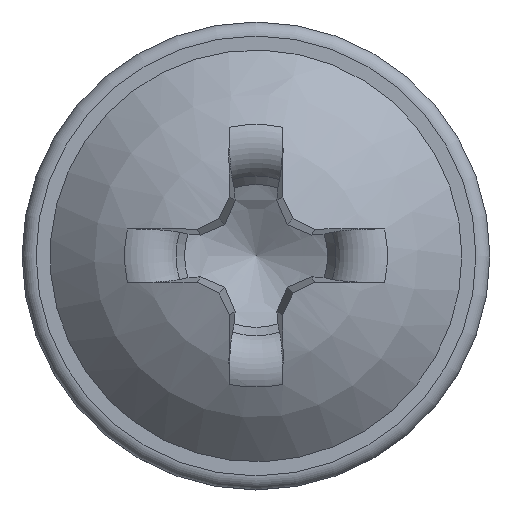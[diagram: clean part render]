
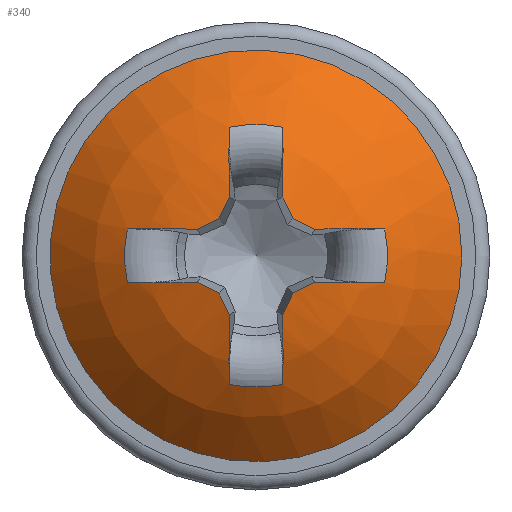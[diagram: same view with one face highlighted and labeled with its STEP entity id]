
A CAD part, top view. The second image highlights one B-rep face of the part: STEP entity #340.
In plain terms, the highlighted spherical face has radius 4.38 mm.
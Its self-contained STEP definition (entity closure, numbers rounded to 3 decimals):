
#301=SPHERICAL_SURFACE('',#1840,4.38);
#312=FACE_BOUND('',#564,.T.);
#313=FACE_BOUND('',#565,.T.);
#340=ADVANCED_FACE('',(#312,#313),#301,.T.);
#564=EDGE_LOOP('',(#768));
#565=EDGE_LOOP('',(#769,#770,#771,#772,#773,#774,#775,#776,#777,#778,#779,
#780,#781,#782,#783,#784,#785,#786,#787,#788));
#688=CIRCLE('',#1819,3.3);
#689=CIRCLE('',#1820,4.38);
#690=CIRCLE('',#1821,2.106);
#691=CIRCLE('',#1822,4.38);
#692=CIRCLE('',#1823,4.366);
#693=CIRCLE('',#1824,4.366);
#694=CIRCLE('',#1825,4.38);
#695=CIRCLE('',#1826,2.106);
#696=CIRCLE('',#1827,4.38);
#697=CIRCLE('',#1828,4.366);
#698=CIRCLE('',#1829,4.366);
#699=CIRCLE('',#1830,4.38);
#700=CIRCLE('',#1831,2.106);
#701=CIRCLE('',#1832,4.38);
#702=CIRCLE('',#1833,4.366);
#703=CIRCLE('',#1834,4.366);
#704=CIRCLE('',#1835,4.38);
#705=CIRCLE('',#1836,2.106);
#706=CIRCLE('',#1837,4.38);
#707=CIRCLE('',#1838,4.366);
#708=CIRCLE('',#1839,4.366);
#768=ORIENTED_EDGE('',*,*,#1452,.T.);
#769=ORIENTED_EDGE('',*,*,#1453,.F.);
#770=ORIENTED_EDGE('',*,*,#1454,.T.);
#771=ORIENTED_EDGE('',*,*,#1455,.F.);
#772=ORIENTED_EDGE('',*,*,#1456,.F.);
#773=ORIENTED_EDGE('',*,*,#1457,.F.);
#774=ORIENTED_EDGE('',*,*,#1458,.F.);
#775=ORIENTED_EDGE('',*,*,#1459,.T.);
#776=ORIENTED_EDGE('',*,*,#1460,.F.);
#777=ORIENTED_EDGE('',*,*,#1461,.F.);
#778=ORIENTED_EDGE('',*,*,#1462,.F.);
#779=ORIENTED_EDGE('',*,*,#1463,.F.);
#780=ORIENTED_EDGE('',*,*,#1464,.T.);
#781=ORIENTED_EDGE('',*,*,#1465,.F.);
#782=ORIENTED_EDGE('',*,*,#1466,.F.);
#783=ORIENTED_EDGE('',*,*,#1467,.F.);
#784=ORIENTED_EDGE('',*,*,#1468,.F.);
#785=ORIENTED_EDGE('',*,*,#1469,.T.);
#786=ORIENTED_EDGE('',*,*,#1470,.F.);
#787=ORIENTED_EDGE('',*,*,#1471,.F.);
#788=ORIENTED_EDGE('',*,*,#1472,.F.);
#1290=VERTEX_POINT('',#3840);
#1291=VERTEX_POINT('',#3842);
#1292=VERTEX_POINT('',#3843);
#1293=VERTEX_POINT('',#3845);
#1294=VERTEX_POINT('',#3847);
#1295=VERTEX_POINT('',#3849);
#1296=VERTEX_POINT('',#3851);
#1297=VERTEX_POINT('',#3853);
#1298=VERTEX_POINT('',#3855);
#1299=VERTEX_POINT('',#3857);
#1300=VERTEX_POINT('',#3859);
#1301=VERTEX_POINT('',#3861);
#1302=VERTEX_POINT('',#3863);
#1303=VERTEX_POINT('',#3865);
#1304=VERTEX_POINT('',#3867);
#1305=VERTEX_POINT('',#3869);
#1306=VERTEX_POINT('',#3871);
#1307=VERTEX_POINT('',#3873);
#1308=VERTEX_POINT('',#3875);
#1309=VERTEX_POINT('',#3877);
#1310=VERTEX_POINT('',#3879);
#1452=EDGE_CURVE('',#1290,#1290,#688,.T.);
#1453=EDGE_CURVE('',#1291,#1292,#689,.T.);
#1454=EDGE_CURVE('',#1291,#1293,#690,.T.);
#1455=EDGE_CURVE('',#1294,#1293,#691,.T.);
#1456=EDGE_CURVE('',#1295,#1294,#692,.T.);
#1457=EDGE_CURVE('',#1296,#1295,#693,.T.);
#1458=EDGE_CURVE('',#1297,#1296,#694,.T.);
#1459=EDGE_CURVE('',#1297,#1298,#695,.T.);
#1460=EDGE_CURVE('',#1299,#1298,#696,.T.);
#1461=EDGE_CURVE('',#1300,#1299,#697,.T.);
#1462=EDGE_CURVE('',#1301,#1300,#698,.T.);
#1463=EDGE_CURVE('',#1302,#1301,#699,.T.);
#1464=EDGE_CURVE('',#1302,#1303,#700,.T.);
#1465=EDGE_CURVE('',#1304,#1303,#701,.T.);
#1466=EDGE_CURVE('',#1305,#1304,#702,.T.);
#1467=EDGE_CURVE('',#1306,#1305,#703,.T.);
#1468=EDGE_CURVE('',#1307,#1306,#704,.T.);
#1469=EDGE_CURVE('',#1307,#1308,#705,.T.);
#1470=EDGE_CURVE('',#1309,#1308,#706,.T.);
#1471=EDGE_CURVE('',#1310,#1309,#707,.T.);
#1472=EDGE_CURVE('',#1292,#1310,#708,.T.);
#1819=AXIS2_PLACEMENT_3D('',#3839,#1906,#1907);
#1820=AXIS2_PLACEMENT_3D('',#3841,#1908,#1909);
#1821=AXIS2_PLACEMENT_3D('',#3844,#1910,#1911);
#1822=AXIS2_PLACEMENT_3D('',#3846,#1912,#1913);
#1823=AXIS2_PLACEMENT_3D('',#3848,#1914,#1915);
#1824=AXIS2_PLACEMENT_3D('',#3850,#1916,#1917);
#1825=AXIS2_PLACEMENT_3D('',#3852,#1918,#1919);
#1826=AXIS2_PLACEMENT_3D('',#3854,#1920,#1921);
#1827=AXIS2_PLACEMENT_3D('',#3856,#1922,#1923);
#1828=AXIS2_PLACEMENT_3D('',#3858,#1924,#1925);
#1829=AXIS2_PLACEMENT_3D('',#3860,#1926,#1927);
#1830=AXIS2_PLACEMENT_3D('',#3862,#1928,#1929);
#1831=AXIS2_PLACEMENT_3D('',#3864,#1930,#1931);
#1832=AXIS2_PLACEMENT_3D('',#3866,#1932,#1933);
#1833=AXIS2_PLACEMENT_3D('',#3868,#1934,#1935);
#1834=AXIS2_PLACEMENT_3D('',#3870,#1936,#1937);
#1835=AXIS2_PLACEMENT_3D('',#3872,#1938,#1939);
#1836=AXIS2_PLACEMENT_3D('',#3874,#1940,#1941);
#1837=AXIS2_PLACEMENT_3D('',#3876,#1942,#1943);
#1838=AXIS2_PLACEMENT_3D('',#3878,#1944,#1945);
#1839=AXIS2_PLACEMENT_3D('',#3880,#1946,#1947);
#1840=AXIS2_PLACEMENT_3D('',#3881,#1948,#1949);
#1906=DIRECTION('',(0.,0.,1.));
#1907=DIRECTION('',(1.,0.,0.));
#1908=DIRECTION('',(-0.996,-0.035,0.087));
#1909=DIRECTION('',(0.087,0.,0.996));
#1910=DIRECTION('',(0.,0.,-1.));
#1911=DIRECTION('',(-1.,0.,0.));
#1912=DIRECTION('',(0.996,-0.035,0.087));
#1913=DIRECTION('',(0.087,0.,-0.996));
#1914=DIRECTION('',(0.902,0.42,0.1));
#1915=DIRECTION('',(-0.423,0.906,0.));
#1916=DIRECTION('',(0.42,0.902,0.1));
#1917=DIRECTION('',(-0.906,0.423,0.));
#1918=DIRECTION('',(-0.035,0.996,0.087));
#1919=DIRECTION('',(0.,-0.087,0.996));
#1920=DIRECTION('',(0.,0.,-1.));
#1921=DIRECTION('',(-1.,0.,0.));
#1922=DIRECTION('',(-0.035,-0.996,0.087));
#1923=DIRECTION('',(0.,-0.087,-0.996));
#1924=DIRECTION('',(0.42,-0.902,0.1));
#1925=DIRECTION('',(0.906,0.423,0.));
#1926=DIRECTION('',(0.902,-0.42,0.1));
#1927=DIRECTION('',(0.423,0.906,0.));
#1928=DIRECTION('',(0.996,0.035,0.087));
#1929=DIRECTION('',(0.087,0.,-0.996));
#1930=DIRECTION('',(0.,0.,-1.));
#1931=DIRECTION('',(-1.,0.,0.));
#1932=DIRECTION('',(-0.996,0.035,0.087));
#1933=DIRECTION('',(0.087,0.,0.996));
#1934=DIRECTION('',(-0.902,-0.42,0.1));
#1935=DIRECTION('',(0.423,-0.906,0.));
#1936=DIRECTION('',(-0.42,-0.902,0.1));
#1937=DIRECTION('',(0.906,-0.423,0.));
#1938=DIRECTION('',(0.035,-0.996,0.087));
#1939=DIRECTION('',(0.,-0.087,-0.996));
#1940=DIRECTION('',(0.,0.,-1.));
#1941=DIRECTION('',(-1.,0.,0.));
#1942=DIRECTION('',(0.035,0.996,0.087));
#1943=DIRECTION('',(0.,-0.087,0.996));
#1944=DIRECTION('',(-0.42,0.902,0.1));
#1945=DIRECTION('',(-0.906,-0.423,0.));
#1946=DIRECTION('',(-0.902,0.42,0.1));
#1947=DIRECTION('',(-0.423,-0.906,0.));
#1948=DIRECTION('',(0.,0.,1.));
#1949=DIRECTION('',(0.,1.,0.));
#3839=CARTESIAN_POINT('',(0.,0.,0.9));
#3840=CARTESIAN_POINT('',(3.3,0.,0.9));
#3841=CARTESIAN_POINT('',(0.022,0.001,-1.982));
#3842=CARTESIAN_POINT('',(0.43,-2.062,1.86));
#3843=CARTESIAN_POINT('',(0.428,-0.943,2.276));
#3844=CARTESIAN_POINT('',(0.,0.,1.86));
#3845=CARTESIAN_POINT('',(-0.43,-2.062,1.86));
#3846=CARTESIAN_POINT('',(-0.022,0.001,-1.982));
#3847=CARTESIAN_POINT('',(-0.428,-0.943,2.276));
#3848=CARTESIAN_POINT('',(-0.321,-0.15,-2.016));
#3849=CARTESIAN_POINT('',(-0.595,-0.595,2.319));
#3850=CARTESIAN_POINT('',(-0.15,-0.321,-2.016));
#3851=CARTESIAN_POINT('',(-0.943,-0.428,2.276));
#3852=CARTESIAN_POINT('',(0.001,-0.022,-1.982));
#3853=CARTESIAN_POINT('',(-2.062,-0.43,1.86));
#3854=CARTESIAN_POINT('',(0.,0.,1.86));
#3855=CARTESIAN_POINT('',(-2.062,0.43,1.86));
#3856=CARTESIAN_POINT('',(0.001,0.022,-1.982));
#3857=CARTESIAN_POINT('',(-0.943,0.428,2.276));
#3858=CARTESIAN_POINT('',(-0.15,0.321,-2.016));
#3859=CARTESIAN_POINT('',(-0.595,0.595,2.319));
#3860=CARTESIAN_POINT('',(-0.321,0.15,-2.016));
#3861=CARTESIAN_POINT('',(-0.428,0.943,2.276));
#3862=CARTESIAN_POINT('',(-0.022,-0.001,-1.982));
#3863=CARTESIAN_POINT('',(-0.43,2.062,1.86));
#3864=CARTESIAN_POINT('',(0.,0.,1.86));
#3865=CARTESIAN_POINT('',(0.43,2.062,1.86));
#3866=CARTESIAN_POINT('',(0.022,-0.001,-1.982));
#3867=CARTESIAN_POINT('',(0.428,0.943,2.276));
#3868=CARTESIAN_POINT('',(0.321,0.15,-2.016));
#3869=CARTESIAN_POINT('',(0.595,0.595,2.319));
#3870=CARTESIAN_POINT('',(0.15,0.321,-2.016));
#3871=CARTESIAN_POINT('',(0.943,0.428,2.276));
#3872=CARTESIAN_POINT('',(-0.001,0.022,-1.982));
#3873=CARTESIAN_POINT('',(2.062,0.43,1.86));
#3874=CARTESIAN_POINT('',(0.,0.,1.86));
#3875=CARTESIAN_POINT('',(2.062,-0.43,1.86));
#3876=CARTESIAN_POINT('',(-0.001,-0.022,-1.982));
#3877=CARTESIAN_POINT('',(0.943,-0.428,2.276));
#3878=CARTESIAN_POINT('',(0.15,-0.321,-2.016));
#3879=CARTESIAN_POINT('',(0.595,-0.595,2.319));
#3880=CARTESIAN_POINT('',(0.321,-0.15,-2.016));
#3881=CARTESIAN_POINT('',(0.,0.,-1.98));
